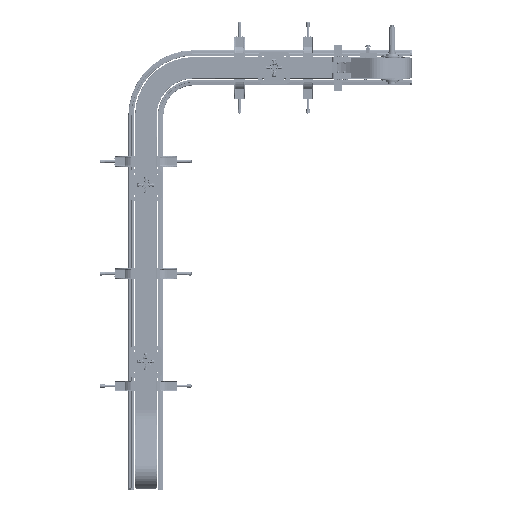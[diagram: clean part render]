
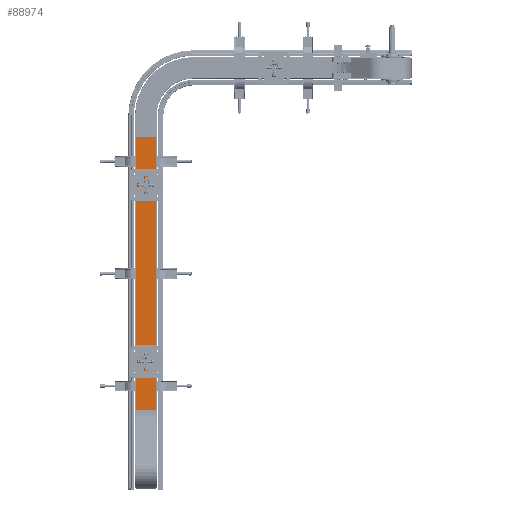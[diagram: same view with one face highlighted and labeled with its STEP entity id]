
A CAD part, front view. The second image highlights one B-rep face of the part: STEP entity #88974.
In plain terms, the highlighted planar face has unit normal (0, -1, 0).
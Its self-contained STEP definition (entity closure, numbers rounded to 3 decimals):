
#1175 = VERTEX_POINT ( 'NONE', #76328 ) ;
#7306 = VERTEX_POINT ( 'NONE', #24810 ) ;
#19338 = CARTESIAN_POINT ( 'NONE',  ( -290., -105.8, 816.25 ) ) ;
#19726 = FACE_OUTER_BOUND ( 'NONE', #87102, .T. ) ;
#21298 = ORIENTED_EDGE ( 'NONE', *, *, #34049, .T. ) ;
#24217 = EDGE_CURVE ( 'NONE', #73549, #7306, #66886, .T. ) ;
#24810 = CARTESIAN_POINT ( 'NONE',  ( -1425., -105.8, 733.75 ) ) ;
#34049 = EDGE_CURVE ( 'NONE', #59309, #1175, #109198, .T. ) ;
#35277 = CARTESIAN_POINT ( 'NONE',  ( -1425., -105.8, 816.25 ) ) ;
#36597 = PLANE ( 'NONE',  #74448 ) ;
#38064 = DIRECTION ( 'NONE',  ( 0., 0., 1. ) ) ;
#39471 = DIRECTION ( 'NONE',  ( -1., 0., 0. ) ) ;
#41028 = VECTOR ( 'NONE', #38064, 1000. ) ;
#43153 = CARTESIAN_POINT ( 'NONE',  ( -290., -105.8, 816.25 ) ) ;
#55909 = DIRECTION ( 'NONE',  ( 0., 0., -1. ) ) ;
#55966 = VECTOR ( 'NONE', #63936, 1000. ) ;
#56113 = EDGE_CURVE ( 'NONE', #7306, #1175, #75760, .T. ) ;
#56397 = CARTESIAN_POINT ( 'NONE',  ( -290., -105.8, 816.25 ) ) ;
#56721 = CARTESIAN_POINT ( 'NONE',  ( -290., -105.8, 733.75 ) ) ;
#57341 = LINE ( 'NONE', #19338, #41028 ) ;
#59309 = VERTEX_POINT ( 'NONE', #56397 ) ;
#60858 = ORIENTED_EDGE ( 'NONE', *, *, #62218, .T. ) ;
#62218 = EDGE_CURVE ( 'NONE', #73549, #59309, #57341, .T. ) ;
#63312 = VECTOR ( 'NONE', #90501, 1000. ) ;
#63936 = DIRECTION ( 'NONE',  ( 0., 0., 1. ) ) ;
#64843 = ORIENTED_EDGE ( 'NONE', *, *, #56113, .F. ) ;
#66886 = LINE ( 'NONE', #75632, #99645 ) ;
#67077 = DIRECTION ( 'NONE',  ( 0., -1., 0. ) ) ;
#73549 = VERTEX_POINT ( 'NONE', #56721 ) ;
#74448 = AXIS2_PLACEMENT_3D ( 'NONE', #114466, #67077, #55909 ) ;
#75632 = CARTESIAN_POINT ( 'NONE',  ( -290., -105.8, 733.75 ) ) ;
#75760 = LINE ( 'NONE', #35277, #55966 ) ;
#76328 = CARTESIAN_POINT ( 'NONE',  ( -1425., -105.8, 816.25 ) ) ;
#87102 = EDGE_LOOP ( 'NONE', ( #21298, #64843, #105545, #60858 ) ) ;
#88974 = ADVANCED_FACE ( 'NONE', ( #19726 ), #36597, .T. ) ;
#90501 = DIRECTION ( 'NONE',  ( -1., 0., 0. ) ) ;
#99645 = VECTOR ( 'NONE', #39471, 1000. ) ;
#105545 = ORIENTED_EDGE ( 'NONE', *, *, #24217, .F. ) ;
#109198 = LINE ( 'NONE', #43153, #63312 ) ;
#114466 = CARTESIAN_POINT ( 'NONE',  ( -290., -105.8, 816.25 ) ) ;
